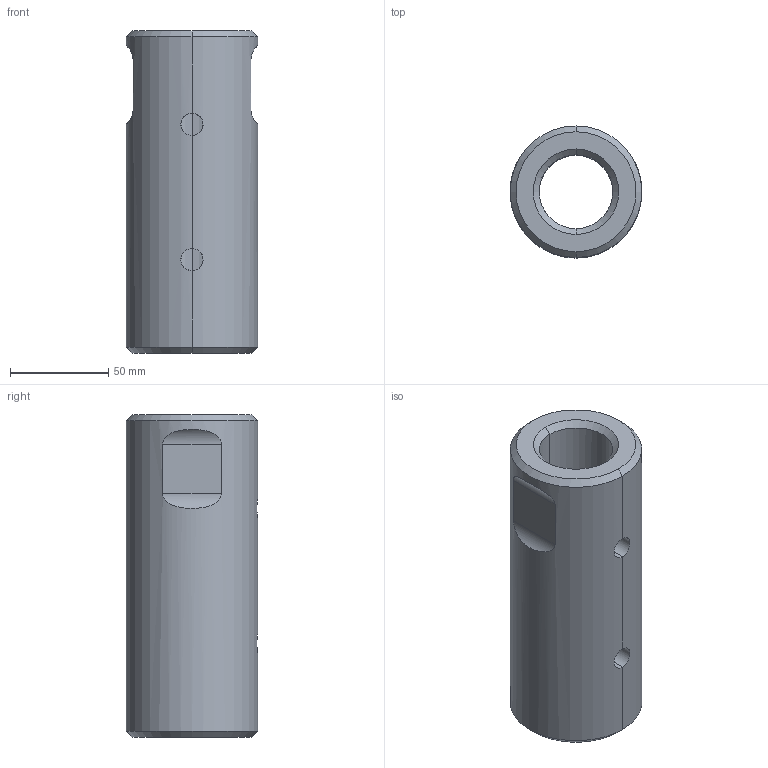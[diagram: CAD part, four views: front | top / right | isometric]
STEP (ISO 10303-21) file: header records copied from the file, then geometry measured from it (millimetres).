
FILE_DESCRIPTION (( 'STEP AP203' ), '1' );
FILE_NAME ('Spannschloss M42.STEP', '2018-02-22T10:01:37', ( 'install' ), ( 'Hewlett-Packard Company' ), 'SwSTEP 2.0', 'SolidWorks 2017', '' );
FILE_SCHEMA (( 'CONFIG_CONTROL_DESIGN' ));
Length unit declared in the file: millimetre
Products named in the file (1): Spannschloss M42
Bounding box: 67 x 67 x 164 mm (x, y, z)
Volume: 353692.6 mm3; surface area: 60415.1 mm2
Topology: 1 solids, 1 shells, 30 faces, 74 edges, 44 vertices
Faces by surface type: cylinder 16, cone 8, plane 6
Entity records: 1484 total; most frequent: CARTESIAN_POINT 702, ORIENTED_EDGE 148, DIRECTION 144, EDGE_CURVE 74, AXIS2_PLACEMENT_3D 55, VERTEX_POINT 44, EDGE_LOOP 34, VECTOR 34
